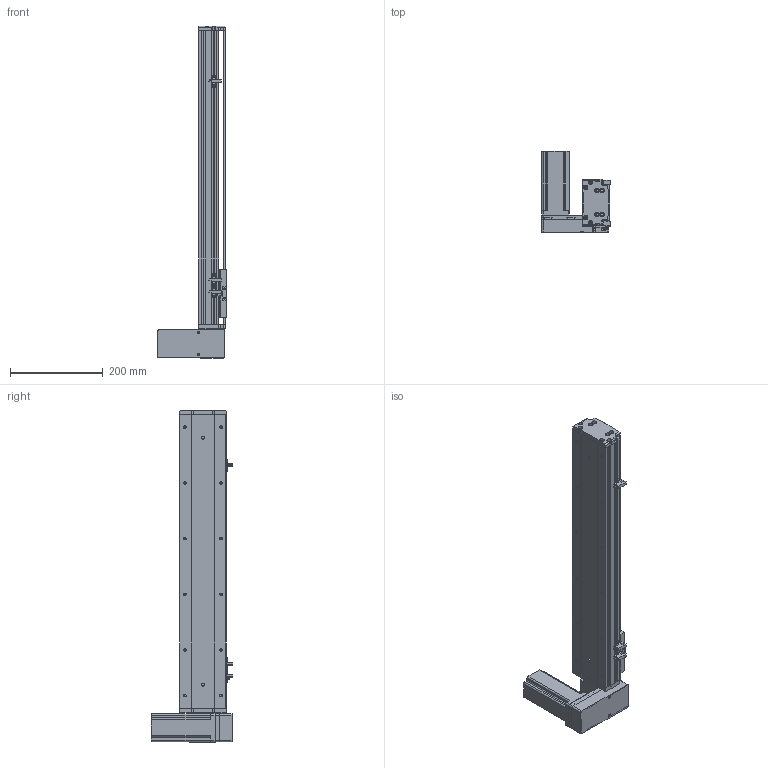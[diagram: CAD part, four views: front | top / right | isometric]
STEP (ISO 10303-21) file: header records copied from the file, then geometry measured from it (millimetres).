
FILE_DESCRIPTION (( 'STEP AP214' ), '1' );
FILE_NAME ('KSD100B-S450-MRD-CM.STEP', '2019-11-11T07:45:14', ( '微软用户' ), ( '微软中国' ), 'SwSTEP 2.0', 'SolidWorks 2014', '' );
FILE_SCHEMA (( 'AUTOMOTIVE_DESIGN' ));
Length unit declared in the file: millimetre
Products named in the file (13): 100宽马达安装板同步带; 100遵傷啣肮祭湍; 100宽底板半封闭同步带450行程; KSD100B-S450-MRD-CM; 肣翐M4X25樓6; 悵誘欶奻狟殏; 100宽马达安装板连板上下折丝杆同步带; 台达ECMA－C20604AS伺服电机; U倰嫖萇EEㄜSX672; 覜茼え100遵圉猾敕; 100宽防尘板450行程-同步带; 100宽马达安装板同步带右; 100宽同步带安装板半封闭
Assembly tree (14 placements, depth 2):
  KSD100B-S450-MRD-CM
    100宽底板半封闭同步带450行程
    100遵傷啣肮祭湍
    100宽马达安装板同步带
    100宽同步带安装板半封闭
    100宽马达安装板同步带右
    100宽防尘板450行程-同步带
    覜茼え100遵圉猾敕
    U倰嫖萇EEㄜSX672  x3
    台达ECMA－C20604AS伺服电机
    100宽马达安装板连板上下折丝杆同步带
    悵誘欶奻狟殏
    肣翐M4X25樓6
Bounding box: 148 x 174.7 x 715 mm (x, y, z)
Volume: 1928087.9 mm3; surface area: 609317.6 mm2
Topology: 15 solids, 15 shells, 1340 faces, 3738 edges, 2398 vertices
Faces by surface type: cylinder 651, plane 584, cone 105
Entity records: 46335 total; most frequent: CARTESIAN_POINT 8507, DIRECTION 6456, ORIENTED_EDGE 6172, EDGE_CURVE 3086, AXIS2_PLACEMENT_3D 2341, VERTEX_POINT 2022, VECTOR 1774, LINE 1774
